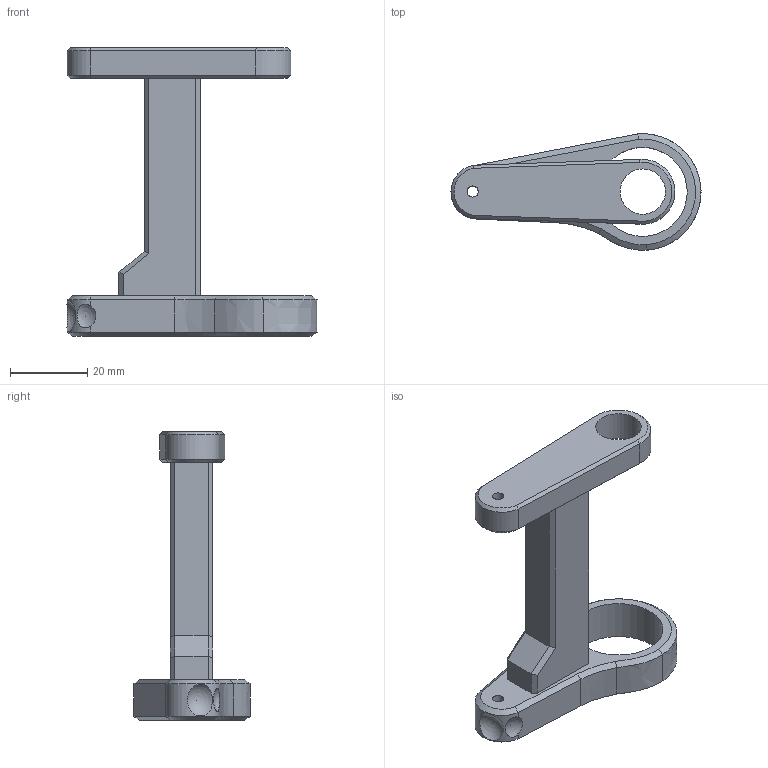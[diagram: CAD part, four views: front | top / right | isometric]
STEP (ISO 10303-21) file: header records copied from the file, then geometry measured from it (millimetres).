
FILE_DESCRIPTION(/* description */ (''),/* implementation_level */ '2;1');
FILE_NAME(/* name */ 'Sight Metric.stp',/* time_stamp */ '2026-08-22T07:51:03-06:00',/* author */ (''),/* organization */ (''),/* preprocessor_version */ 'ST-DEVELOPER v18.102',/* originating_system */ 'SIEMENS PLM Software NX 2027',/* authorisation */ '');
FILE_SCHEMA (('AUTOMOTIVE_DESIGN { 1 0 10303 214 3 1 1 1 }'));
Length unit declared in the file: millimetre
Products named in the file (1): Sight Metric
Bounding box: 64.79 x 30.16 x 74.7 mm (x, y, z)
Volume: 24198.5 mm3; surface area: 9298.8 mm2
Topology: 1 solids, 1 shells, 58 faces, 141 edges, 86 vertices
Faces by surface type: plane 27, cylinder 9, bspline 8, cone 6, extrusion 6, sphere 2
Full cylindrical faces by diameter (mm): 2.877 x2, 11.757 x1, 23.077 x1
Entity records: 2073 total; most frequent: CARTESIAN_POINT 830, ORIENTED_EDGE 262, DIRECTION 209, EDGE_CURVE 131, VERTEX_POINT 82, EDGE_LOOP 73, AXIS2_PLACEMENT_3D 71, VECTOR 67
